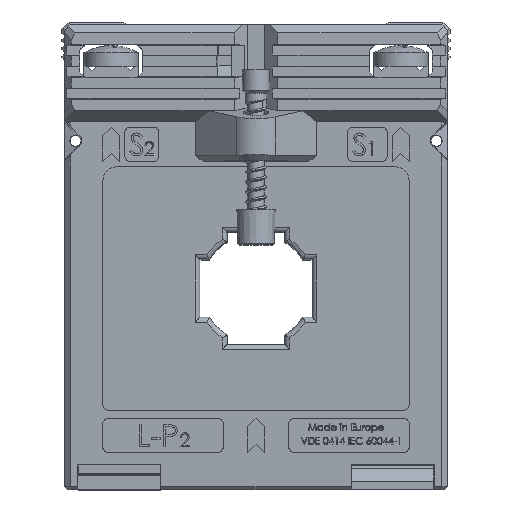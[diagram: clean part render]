
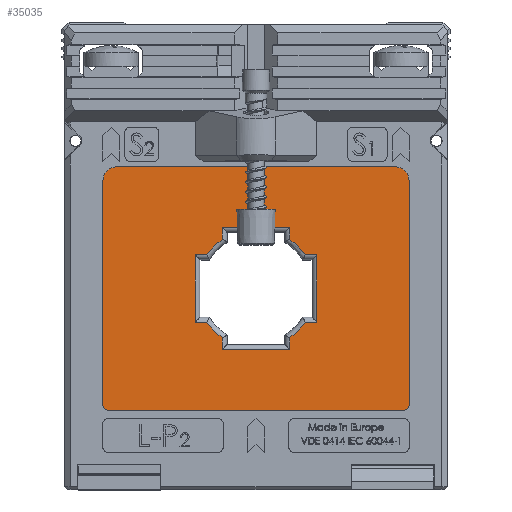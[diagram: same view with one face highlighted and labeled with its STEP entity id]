
A CAD part, top view. The second image highlights one B-rep face of the part: STEP entity #35035.
In plain terms, the highlighted planar face has unit normal (0, 0, 1).
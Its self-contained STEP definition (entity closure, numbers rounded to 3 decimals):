
#487=FACE_BOUND('',#5647,.T.);
#1189=PLANE('',#36997);
#3660=FACE_OUTER_BOUND('',#5646,.T.);
#5646=EDGE_LOOP('',(#27956,#27957,#27958,#27959,#27960,#27961,#27962,#27963));
#5647=EDGE_LOOP('',(#27964,#27965,#27966,#27967,#27968,#27969,#27970,#27971,
#27972,#27973,#27974,#27975,#27976,#27977,#27978,#27979));
#6704=CIRCLE('',#36916,10.9);
#6706=CIRCLE('',#36926,10.9);
#6708=CIRCLE('',#36932,10.9);
#6710=CIRCLE('',#36942,10.9);
#6712=CIRCLE('',#36986,1.);
#6713=CIRCLE('',#36989,1.);
#6714=CIRCLE('',#36992,2.5);
#6715=CIRCLE('',#36995,2.5);
#9239=LINE('',#65715,#12914);
#9241=LINE('',#65751,#12916);
#9243=LINE('',#65755,#12918);
#9245=LINE('',#65776,#12920);
#9247=LINE('',#65780,#12922);
#9249=LINE('',#65801,#12924);
#9251=LINE('',#65818,#12926);
#9253=LINE('',#65839,#12928);
#9255=LINE('',#65843,#12930);
#9257=LINE('',#65860,#12932);
#9259=LINE('',#65864,#12934);
#9261=LINE('',#65888,#12936);
#9318=LINE('',#66003,#12993);
#9321=LINE('',#66011,#12996);
#9324=LINE('',#66019,#12999);
#9327=LINE('',#66026,#13002);
#12914=VECTOR('',#42125,1000.);
#12916=VECTOR('',#42137,1000.);
#12918=VECTOR('',#42141,1000.);
#12920=VECTOR('',#42147,1000.);
#12922=VECTOR('',#42151,1000.);
#12924=VECTOR('',#42163,1000.);
#12926=VECTOR('',#42169,1000.);
#12928=VECTOR('',#42181,1000.);
#12930=VECTOR('',#42185,1000.);
#12932=VECTOR('',#42191,1000.);
#12934=VECTOR('',#42195,1000.);
#12936=VECTOR('',#42207,1000.);
#12993=VECTOR('',#42350,1000.);
#12996=VECTOR('',#42359,1000.);
#12999=VECTOR('',#42368,1000.);
#13002=VECTOR('',#42377,1000.);
#16461=VERTEX_POINT('',#65711);
#16463=VERTEX_POINT('',#65714);
#16465=VERTEX_POINT('',#65733);
#16467=VERTEX_POINT('',#65748);
#16469=VERTEX_POINT('',#65754);
#16471=VERTEX_POINT('',#65760);
#16473=VERTEX_POINT('',#65779);
#16475=VERTEX_POINT('',#65785);
#16477=VERTEX_POINT('',#65800);
#16479=VERTEX_POINT('',#65815);
#16481=VERTEX_POINT('',#65821);
#16483=VERTEX_POINT('',#65836);
#16485=VERTEX_POINT('',#65842);
#16487=VERTEX_POINT('',#65848);
#16489=VERTEX_POINT('',#65863);
#16491=VERTEX_POINT('',#65869);
#16505=VERTEX_POINT('',#65996);
#16506=VERTEX_POINT('',#65998);
#16507=VERTEX_POINT('',#66002);
#16508=VERTEX_POINT('',#66006);
#16509=VERTEX_POINT('',#66010);
#16510=VERTEX_POINT('',#66014);
#16511=VERTEX_POINT('',#66018);
#16512=VERTEX_POINT('',#66022);
#20477=EDGE_CURVE('',#16461,#16463,#9239,.T.);
#20480=EDGE_CURVE('',#16463,#16465,#6704,.T.);
#20484=EDGE_CURVE('',#16467,#16461,#9241,.T.);
#20486=EDGE_CURVE('',#16465,#16469,#9243,.T.);
#20490=EDGE_CURVE('',#16471,#16467,#9245,.T.);
#20492=EDGE_CURVE('',#16469,#16473,#9247,.T.);
#20496=EDGE_CURVE('',#16475,#16471,#6706,.T.);
#20498=EDGE_CURVE('',#16473,#16477,#9249,.T.);
#20502=EDGE_CURVE('',#16479,#16475,#9251,.T.);
#20504=EDGE_CURVE('',#16477,#16481,#6708,.T.);
#20508=EDGE_CURVE('',#16483,#16479,#9253,.T.);
#20510=EDGE_CURVE('',#16481,#16485,#9255,.T.);
#20514=EDGE_CURVE('',#16487,#16483,#9257,.T.);
#20516=EDGE_CURVE('',#16485,#16489,#9259,.T.);
#20520=EDGE_CURVE('',#16491,#16487,#6710,.T.);
#20522=EDGE_CURVE('',#16489,#16491,#9261,.T.);
#20578=EDGE_CURVE('',#16506,#16505,#6712,.T.);
#20580=EDGE_CURVE('',#16507,#16506,#9318,.T.);
#20582=EDGE_CURVE('',#16508,#16507,#6713,.T.);
#20584=EDGE_CURVE('',#16509,#16508,#9321,.T.);
#20586=EDGE_CURVE('',#16510,#16509,#6714,.T.);
#20588=EDGE_CURVE('',#16511,#16510,#9324,.T.);
#20590=EDGE_CURVE('',#16512,#16511,#6715,.T.);
#20592=EDGE_CURVE('',#16505,#16512,#9327,.T.);
#27956=ORIENTED_EDGE('',*,*,#20578,.T.);
#27957=ORIENTED_EDGE('',*,*,#20592,.T.);
#27958=ORIENTED_EDGE('',*,*,#20590,.T.);
#27959=ORIENTED_EDGE('',*,*,#20588,.T.);
#27960=ORIENTED_EDGE('',*,*,#20586,.T.);
#27961=ORIENTED_EDGE('',*,*,#20584,.T.);
#27962=ORIENTED_EDGE('',*,*,#20582,.T.);
#27963=ORIENTED_EDGE('',*,*,#20580,.T.);
#27964=ORIENTED_EDGE('',*,*,#20484,.F.);
#27965=ORIENTED_EDGE('',*,*,#20490,.F.);
#27966=ORIENTED_EDGE('',*,*,#20496,.F.);
#27967=ORIENTED_EDGE('',*,*,#20502,.F.);
#27968=ORIENTED_EDGE('',*,*,#20508,.F.);
#27969=ORIENTED_EDGE('',*,*,#20514,.F.);
#27970=ORIENTED_EDGE('',*,*,#20520,.F.);
#27971=ORIENTED_EDGE('',*,*,#20522,.F.);
#27972=ORIENTED_EDGE('',*,*,#20516,.F.);
#27973=ORIENTED_EDGE('',*,*,#20510,.F.);
#27974=ORIENTED_EDGE('',*,*,#20504,.F.);
#27975=ORIENTED_EDGE('',*,*,#20498,.F.);
#27976=ORIENTED_EDGE('',*,*,#20492,.F.);
#27977=ORIENTED_EDGE('',*,*,#20486,.F.);
#27978=ORIENTED_EDGE('',*,*,#20480,.F.);
#27979=ORIENTED_EDGE('',*,*,#20477,.F.);
#35035=ADVANCED_FACE('',(#3660,#487),#1189,.T.);
#36916=AXIS2_PLACEMENT_3D('',#65734,#42129,#42130);
#36926=AXIS2_PLACEMENT_3D('',#65797,#42157,#42158);
#36932=AXIS2_PLACEMENT_3D('',#65822,#42173,#42174);
#36942=AXIS2_PLACEMENT_3D('',#65885,#42201,#42202);
#36986=AXIS2_PLACEMENT_3D('',#65999,#42345,#42346);
#36989=AXIS2_PLACEMENT_3D('',#66007,#42354,#42355);
#36992=AXIS2_PLACEMENT_3D('',#66015,#42363,#42364);
#36995=AXIS2_PLACEMENT_3D('',#66023,#42372,#42373);
#36997=AXIS2_PLACEMENT_3D('',#66027,#42378,#42379);
#42125=DIRECTION('',(0.,-1.,0.));
#42129=DIRECTION('center_axis',(0.,0.,1.));
#42130=DIRECTION('ref_axis',(-1.,0.,0.));
#42137=DIRECTION('',(-1.,0.,0.));
#42141=DIRECTION('',(-1.,0.,0.));
#42147=DIRECTION('',(0.,1.,0.));
#42151=DIRECTION('',(0.,-1.,0.));
#42157=DIRECTION('center_axis',(0.,0.,1.));
#42158=DIRECTION('ref_axis',(-1.,0.,0.));
#42163=DIRECTION('',(1.,0.,0.));
#42169=DIRECTION('',(-1.,0.,0.));
#42173=DIRECTION('center_axis',(0.,0.,1.));
#42174=DIRECTION('ref_axis',(-1.,0.,0.));
#42181=DIRECTION('',(0.,1.,0.));
#42185=DIRECTION('',(0.,-1.,0.));
#42191=DIRECTION('',(1.,0.,0.));
#42195=DIRECTION('',(1.,0.,0.));
#42201=DIRECTION('center_axis',(0.,0.,1.));
#42202=DIRECTION('ref_axis',(-1.,0.,0.));
#42207=DIRECTION('',(0.,1.,0.));
#42345=DIRECTION('center_axis',(0.,0.,1.));
#42346=DIRECTION('ref_axis',(1.,0.,0.));
#42350=DIRECTION('',(1.,0.,0.));
#42354=DIRECTION('center_axis',(0.,0.,1.));
#42355=DIRECTION('ref_axis',(-1.,0.,0.));
#42359=DIRECTION('',(0.,-1.,0.));
#42363=DIRECTION('center_axis',(0.,0.,1.));
#42364=DIRECTION('ref_axis',(1.,0.,0.));
#42368=DIRECTION('',(-1.,0.,0.));
#42372=DIRECTION('center_axis',(0.,0.,1.));
#42373=DIRECTION('ref_axis',(-1.,0.,0.));
#42377=DIRECTION('',(0.,1.,0.));
#42378=DIRECTION('center_axis',(0.,0.,1.));
#42379=DIRECTION('ref_axis',(1.,0.,0.));
#65711=CARTESIAN_POINT('',(-6.15,11.15,19.995));
#65714=CARTESIAN_POINT('',(-6.15,8.999,19.995));
#65715=CARTESIAN_POINT('',(-6.15,10.25,19.995));
#65733=CARTESIAN_POINT('',(-8.999,6.15,19.995));
#65734=CARTESIAN_POINT('Origin',(0.,0.,19.995));
#65748=CARTESIAN_POINT('',(6.15,11.15,19.995));
#65751=CARTESIAN_POINT('',(-5.25,11.15,19.995));
#65754=CARTESIAN_POINT('',(-11.15,6.15,19.995));
#65755=CARTESIAN_POINT('',(-10.25,6.15,19.995));
#65760=CARTESIAN_POINT('',(6.15,8.999,19.995));
#65776=CARTESIAN_POINT('',(6.15,10.25,19.995));
#65779=CARTESIAN_POINT('',(-11.15,-6.15,19.995));
#65780=CARTESIAN_POINT('',(-11.15,5.25,19.995));
#65785=CARTESIAN_POINT('',(8.999,6.15,19.995));
#65797=CARTESIAN_POINT('Origin',(0.,0.,19.995));
#65800=CARTESIAN_POINT('',(-8.999,-6.15,19.995));
#65801=CARTESIAN_POINT('',(-10.25,-6.15,19.995));
#65815=CARTESIAN_POINT('',(11.15,6.15,19.995));
#65818=CARTESIAN_POINT('',(8.511,6.15,19.995));
#65821=CARTESIAN_POINT('',(-6.15,-8.999,19.995));
#65822=CARTESIAN_POINT('Origin',(0.,0.,19.995));
#65836=CARTESIAN_POINT('',(11.15,-6.15,19.995));
#65839=CARTESIAN_POINT('',(11.15,5.25,19.995));
#65842=CARTESIAN_POINT('',(-6.15,-11.15,19.995));
#65843=CARTESIAN_POINT('',(-6.15,-10.25,19.995));
#65848=CARTESIAN_POINT('',(8.999,-6.15,19.995));
#65860=CARTESIAN_POINT('',(8.511,-6.15,19.995));
#65863=CARTESIAN_POINT('',(6.15,-11.15,19.995));
#65864=CARTESIAN_POINT('',(-5.25,-11.15,19.995));
#65869=CARTESIAN_POINT('',(6.15,-8.999,19.995));
#65885=CARTESIAN_POINT('Origin',(0.,0.,19.995));
#65888=CARTESIAN_POINT('',(6.15,-10.25,19.995));
#65996=CARTESIAN_POINT('',(28.,-21.25,19.995));
#65998=CARTESIAN_POINT('',(27.,-22.25,19.995));
#65999=CARTESIAN_POINT('Origin',(27.,-21.25,19.995));
#66002=CARTESIAN_POINT('',(-27.,-22.25,19.995));
#66003=CARTESIAN_POINT('',(-27.,-22.25,19.995));
#66006=CARTESIAN_POINT('',(-28.,-21.25,19.995));
#66007=CARTESIAN_POINT('Origin',(-27.,-21.25,19.995));
#66010=CARTESIAN_POINT('',(-28.,19.75,19.995));
#66011=CARTESIAN_POINT('',(-28.,19.75,19.995));
#66014=CARTESIAN_POINT('',(-25.5,22.25,19.995));
#66015=CARTESIAN_POINT('Origin',(-25.5,19.75,19.995));
#66018=CARTESIAN_POINT('',(25.5,22.25,19.995));
#66019=CARTESIAN_POINT('',(-25.5,22.25,19.995));
#66022=CARTESIAN_POINT('',(28.,19.75,19.995));
#66023=CARTESIAN_POINT('Origin',(25.5,19.75,19.995));
#66026=CARTESIAN_POINT('',(28.,19.75,19.995));
#66027=CARTESIAN_POINT('Origin',(27.,-21.25,19.995));
